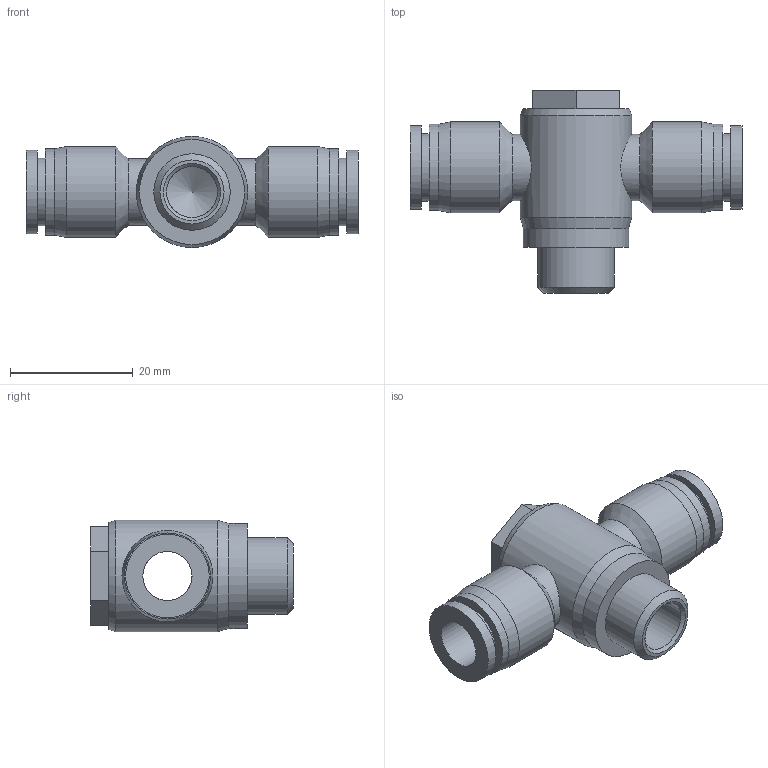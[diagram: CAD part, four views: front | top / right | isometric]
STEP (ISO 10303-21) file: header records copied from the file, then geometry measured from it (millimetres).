
FILE_DESCRIPTION(/* description */ (''),/* implementation_level */ '2;1');
FILE_NAME(/* name */ 'S:\UTecnico\ArchivioUT\Speciali Clienti\Speciali KONFIT\DISEGNI 3D\RP\RP 66\RP661408.stp',/* time_stamp */ '2013-08-01T10:17:20+02:00',/* author */ ('UT5'),/* organization */ (''),/* preprocessor_version */ 'ST-DEVELOPER v15.2',/* originating_system */ 'Autodesk Inventor 2014',/* authorisation */ '');
FILE_SCHEMA (('AUTOMOTIVE_DESIGN { 1 0 10303 214 3 1 1 }'));
Length unit declared in the file: millimetre
Products named in the file (1): RP661408
Bounding box: 54 x 33 x 18.1 mm (x, y, z)
Volume: 8710.6 mm3; surface area: 5837.8 mm2
Topology: 1 solids, 1 shells, 41 faces, 88 edges, 55 vertices
Faces by surface type: plane 16, cylinder 16, cone 9
Full cylindrical faces by diameter (mm): 8 x2, 8.3 x1, 10.8 x2, 11 x2, 12.426 x1, 13.6 x2, 14 x2, 14.8 x2, 17.1 x1, 18.1 x1
Entity records: 1134 total; most frequent: CARTESIAN_POINT 322, DIRECTION 164, ORIENTED_EDGE 106, EDGE_LOOP 78, AXIS2_PLACEMENT_3D 73, EDGE_CURVE 53, VERTEX_POINT 47, FACE_BOUND 43
